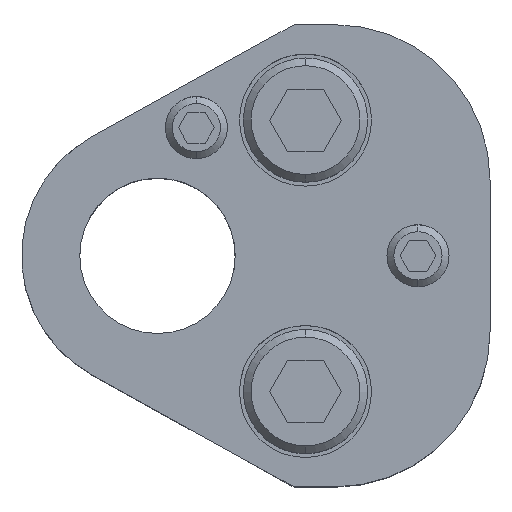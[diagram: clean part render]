
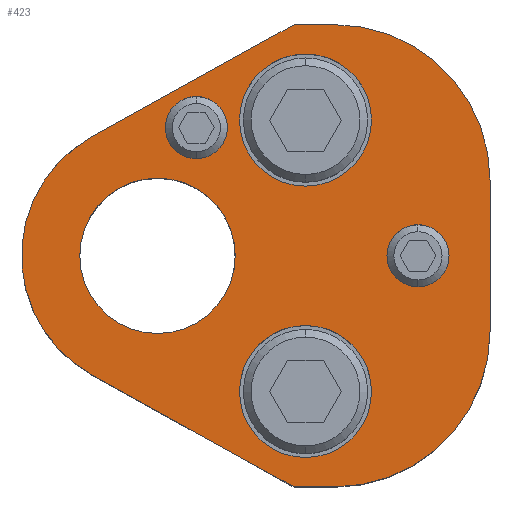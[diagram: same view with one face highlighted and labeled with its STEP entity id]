
A CAD part, top view. The second image highlights one B-rep face of the part: STEP entity #423.
In plain terms, the highlighted planar face has unit normal (0, 0, 1).
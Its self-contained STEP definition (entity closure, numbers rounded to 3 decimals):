
#198=FACE_BOUND('',#745,.T.);
#199=FACE_BOUND('',#746,.T.);
#200=FACE_BOUND('',#747,.T.);
#201=FACE_BOUND('',#748,.T.);
#202=FACE_BOUND('',#749,.T.);
#203=FACE_BOUND('',#750,.T.);
#273=CIRCLE('',#2385,20.);
#275=CIRCLE('',#2389,20.);
#277=CIRCLE('',#2394,4.);
#279=CIRCLE('',#2397,4.);
#281=CIRCLE('',#2400,4.);
#283=CIRCLE('',#2403,4.);
#293=CIRCLE('',#2418,17.5);
#294=CIRCLE('',#2419,8.5);
#295=CIRCLE('',#2420,8.5);
#296=CIRCLE('',#2421,8.5);
#297=CIRCLE('',#2422,8.5);
#298=CIRCLE('',#2423,10.);
#299=CIRCLE('',#2424,10.);
#423=ADVANCED_FACE('',(#198,#199,#200,#201,#202,#203),#519,.T.);
#519=PLANE('',#2425);
#745=EDGE_LOOP('',(#1122,#1123,#1124,#1125,#1126,#1127,#1128,#1129));
#746=EDGE_LOOP('',(#1130,#1131));
#747=EDGE_LOOP('',(#1132,#1133));
#748=EDGE_LOOP('',(#1134,#1135));
#749=EDGE_LOOP('',(#1136,#1137));
#750=EDGE_LOOP('',(#1138,#1139));
#1122=ORIENTED_EDGE('',*,*,#1794,.T.);
#1123=ORIENTED_EDGE('',*,*,#1752,.T.);
#1124=ORIENTED_EDGE('',*,*,#1756,.T.);
#1125=ORIENTED_EDGE('',*,*,#1759,.T.);
#1126=ORIENTED_EDGE('',*,*,#1762,.T.);
#1127=ORIENTED_EDGE('',*,*,#1765,.T.);
#1128=ORIENTED_EDGE('',*,*,#1768,.T.);
#1129=ORIENTED_EDGE('',*,*,#1795,.T.);
#1130=ORIENTED_EDGE('',*,*,#1796,.F.);
#1131=ORIENTED_EDGE('',*,*,#1797,.F.);
#1132=ORIENTED_EDGE('',*,*,#1798,.F.);
#1133=ORIENTED_EDGE('',*,*,#1799,.F.);
#1134=ORIENTED_EDGE('',*,*,#1780,.F.);
#1135=ORIENTED_EDGE('',*,*,#1776,.F.);
#1136=ORIENTED_EDGE('',*,*,#1774,.F.);
#1137=ORIENTED_EDGE('',*,*,#1770,.F.);
#1138=ORIENTED_EDGE('',*,*,#1800,.T.);
#1139=ORIENTED_EDGE('',*,*,#1801,.T.);
#1513=VERTEX_POINT('',#3544);
#1514=VERTEX_POINT('',#3546);
#1517=VERTEX_POINT('',#3553);
#1519=VERTEX_POINT('',#3559);
#1521=VERTEX_POINT('',#3565);
#1523=VERTEX_POINT('',#3571);
#1525=VERTEX_POINT('',#3577);
#1526=VERTEX_POINT('',#3582);
#1527=VERTEX_POINT('',#3583);
#1530=VERTEX_POINT('',#3594);
#1531=VERTEX_POINT('',#3595);
#1542=VERTEX_POINT('',#3630);
#1543=VERTEX_POINT('',#3633);
#1544=VERTEX_POINT('',#3634);
#1545=VERTEX_POINT('',#3637);
#1546=VERTEX_POINT('',#3638);
#1547=VERTEX_POINT('',#3641);
#1548=VERTEX_POINT('',#3642);
#1752=EDGE_CURVE('',#1514,#1513,#2006,.T.);
#1756=EDGE_CURVE('',#1513,#1517,#273,.T.);
#1759=EDGE_CURVE('',#1517,#1519,#2011,.T.);
#1762=EDGE_CURVE('',#1519,#1521,#275,.T.);
#1765=EDGE_CURVE('',#1521,#1523,#2015,.T.);
#1768=EDGE_CURVE('',#1523,#1525,#2018,.T.);
#1770=EDGE_CURVE('',#1526,#1527,#277,.T.);
#1774=EDGE_CURVE('',#1527,#1526,#279,.T.);
#1776=EDGE_CURVE('',#1530,#1531,#281,.T.);
#1780=EDGE_CURVE('',#1531,#1530,#283,.T.);
#1794=EDGE_CURVE('',#1542,#1514,#2028,.T.);
#1795=EDGE_CURVE('',#1525,#1542,#293,.T.);
#1796=EDGE_CURVE('',#1543,#1544,#294,.T.);
#1797=EDGE_CURVE('',#1544,#1543,#295,.T.);
#1798=EDGE_CURVE('',#1545,#1546,#296,.T.);
#1799=EDGE_CURVE('',#1546,#1545,#297,.T.);
#1800=EDGE_CURVE('',#1547,#1548,#298,.T.);
#1801=EDGE_CURVE('',#1548,#1547,#299,.T.);
#2006=LINE('',#3545,#2179);
#2011=LINE('',#3560,#2184);
#2015=LINE('',#3572,#2188);
#2018=LINE('',#3578,#2191);
#2028=LINE('',#3629,#2201);
#2179=VECTOR('',#2815,1.);
#2184=VECTOR('',#2828,1.);
#2188=VECTOR('',#2840,1.);
#2191=VECTOR('',#2845,1.);
#2201=VECTOR('',#2905,1.);
#2385=AXIS2_PLACEMENT_3D('',#3554,#2821,#2822);
#2389=AXIS2_PLACEMENT_3D('',#3566,#2833,#2834);
#2394=AXIS2_PLACEMENT_3D('',#3581,#2849,#2850);
#2397=AXIS2_PLACEMENT_3D('',#3590,#2857,#2858);
#2400=AXIS2_PLACEMENT_3D('',#3593,#2863,#2864);
#2403=AXIS2_PLACEMENT_3D('',#3602,#2871,#2872);
#2418=AXIS2_PLACEMENT_3D('',#3631,#2906,#2907);
#2419=AXIS2_PLACEMENT_3D('',#3632,#2908,#2909);
#2420=AXIS2_PLACEMENT_3D('',#3635,#2910,#2911);
#2421=AXIS2_PLACEMENT_3D('',#3636,#2912,#2913);
#2422=AXIS2_PLACEMENT_3D('',#3639,#2914,#2915);
#2423=AXIS2_PLACEMENT_3D('',#3640,#2916,#2917);
#2424=AXIS2_PLACEMENT_3D('',#3643,#2918,#2919);
#2425=AXIS2_PLACEMENT_3D('',#3644,#2920,#2921);
#2815=DIRECTION('',(1.,0.,0.));
#2821=DIRECTION('',(0.,0.,1.));
#2822=DIRECTION('',(-0.707,0.707,0.));
#2828=DIRECTION('',(0.,1.,0.));
#2833=DIRECTION('',(0.,0.,1.));
#2834=DIRECTION('',(-0.707,-0.707,0.));
#2840=DIRECTION('',(-1.,0.,0.));
#2845=DIRECTION('',(-0.875,-0.485,0.));
#2849=DIRECTION('',(0.,0.,1.));
#2850=DIRECTION('',(-1.,0.,0.));
#2857=DIRECTION('',(0.,0.,1.));
#2858=DIRECTION('',(1.,0.,0.));
#2863=DIRECTION('',(0.,0.,1.));
#2864=DIRECTION('',(-1.,0.,0.));
#2871=DIRECTION('',(0.,0.,1.));
#2872=DIRECTION('',(1.,0.,0.));
#2905=DIRECTION('',(0.875,-0.485,0.));
#2906=DIRECTION('',(0.,0.,1.));
#2907=DIRECTION('',(1.,0.,0.));
#2908=DIRECTION('',(0.,0.,1.));
#2909=DIRECTION('',(1.,0.,0.));
#2910=DIRECTION('',(0.,0.,1.));
#2911=DIRECTION('',(-1.,0.,0.));
#2912=DIRECTION('',(0.,0.,1.));
#2913=DIRECTION('',(1.,0.,0.));
#2914=DIRECTION('',(0.,0.,1.));
#2915=DIRECTION('',(-1.,0.,0.));
#2916=DIRECTION('',(0.,0.,-1.));
#2917=DIRECTION('',(-1.,0.,0.));
#2918=DIRECTION('',(0.,0.,-1.));
#2919=DIRECTION('',(1.,0.,0.));
#2920=DIRECTION('',(0.,0.,1.));
#2921=DIRECTION('',(-0.875,0.485,0.));
#3544=CARTESIAN_POINT('',(22.8,-29.75,32.));
#3545=CARTESIAN_POINT('',(17.574,-29.75,32.));
#3546=CARTESIAN_POINT('',(17.574,-29.75,32.));
#3553=CARTESIAN_POINT('',(42.8,-9.75,32.));
#3554=CARTESIAN_POINT('',(22.8,-9.75,32.));
#3559=CARTESIAN_POINT('',(42.8,9.75,32.));
#3560=CARTESIAN_POINT('',(42.8,9.75,32.));
#3565=CARTESIAN_POINT('',(22.8,29.75,32.));
#3566=CARTESIAN_POINT('',(22.8,9.75,32.));
#3571=CARTESIAN_POINT('',(17.574,29.75,32.));
#3572=CARTESIAN_POINT('',(17.574,29.75,32.));
#3577=CARTESIAN_POINT('',(-8.484,15.306,32.));
#3578=CARTESIAN_POINT('',(17.574,29.75,32.));
#3581=CARTESIAN_POINT('',(5.,16.5,32.));
#3582=CARTESIAN_POINT('',(5.,12.5,32.));
#3583=CARTESIAN_POINT('',(5.,20.5,32.));
#3590=CARTESIAN_POINT('',(5.,16.5,32.));
#3593=CARTESIAN_POINT('',(33.53,0.,32.));
#3594=CARTESIAN_POINT('',(33.53,-4.,32.));
#3595=CARTESIAN_POINT('',(33.53,4.,32.));
#3602=CARTESIAN_POINT('',(33.53,0.,32.));
#3629=CARTESIAN_POINT('',(17.574,-29.75,32.));
#3630=CARTESIAN_POINT('',(-8.484,-15.306,32.));
#3631=CARTESIAN_POINT('',(0.,0.,32.));
#3632=CARTESIAN_POINT('',(19.05,17.47,32.));
#3633=CARTESIAN_POINT('',(19.05,25.97,32.));
#3634=CARTESIAN_POINT('',(19.05,8.97,32.));
#3635=CARTESIAN_POINT('',(19.05,17.47,32.));
#3636=CARTESIAN_POINT('',(19.05,-17.47,32.));
#3637=CARTESIAN_POINT('',(19.05,-8.97,32.));
#3638=CARTESIAN_POINT('',(19.05,-25.97,32.));
#3639=CARTESIAN_POINT('',(19.05,-17.47,32.));
#3640=CARTESIAN_POINT('',(0.,0.,32.));
#3641=CARTESIAN_POINT('',(0.,10.,32.));
#3642=CARTESIAN_POINT('',(0.,-10.,32.));
#3643=CARTESIAN_POINT('',(0.,0.,32.));
#3644=CARTESIAN_POINT('',(-8.484,-15.306,32.));
